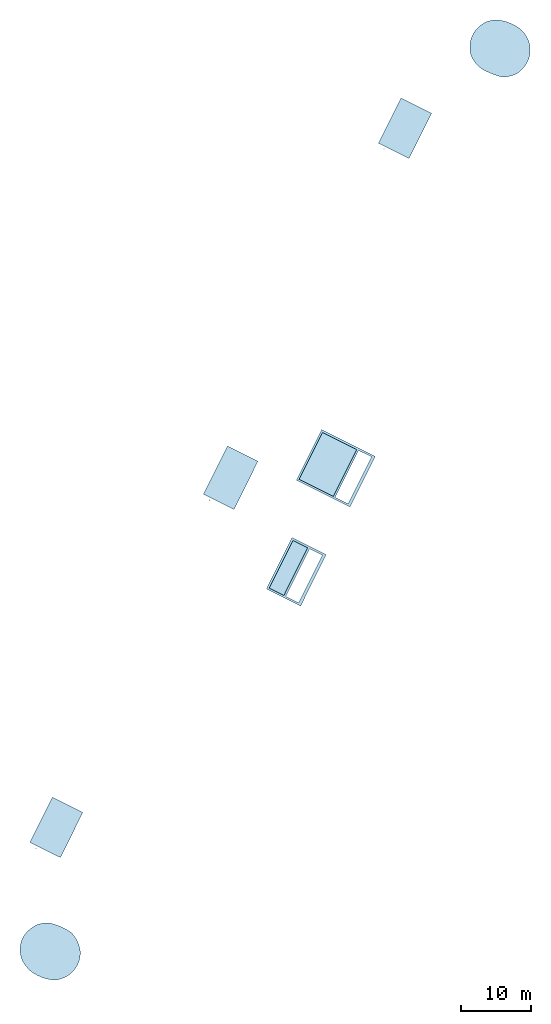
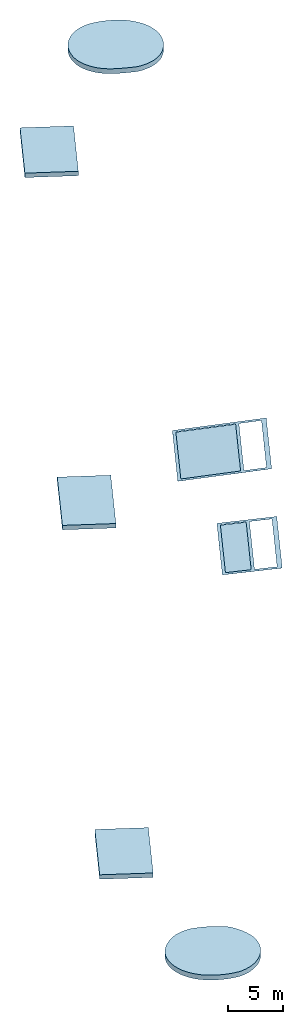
# One storey, part 1 of 4: 9 slabs, 4 openings, 4 elements without a shape of their own.
"""IFC2X3 building model written with IfcOpenShell, lengths in metres."""

from ifc_helpers import new_model, entity, si_unit, converted_unit, derived_unit, direction, frame, frame_2d, origin, origin_2d_with_axis, place, context, subcontext, project, spatial, circle_curve, parameter, trimmed, segment, composite_curve, rectangle, outline, extrude, material, layer, layer_set, layer_usage, element, aggregate, save


model = new_model("IFC2X3")

# Units and contexts
model_context = context("Model", 3, precision=1e-05, world=origin(), true_north=direction((0.894925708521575, 0.446215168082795)))
context_of_model = context(None, 3, precision=1e-05, world=origin(), true_north=direction((0.894925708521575, 0.446215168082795)))
body_context = subcontext(model_context, "Body", "Model", "MODEL_VIEW")
ifc_project = project(units=[si_unit("LENGTHUNIT", "METRE"), si_unit("AREAUNIT", "SQUARE_METRE"), si_unit("VOLUMEUNIT", "CUBIC_METRE"), converted_unit("PLANEANGLEUNIT", "DEGREE", entity("IfcRatioMeasure", 0.0174532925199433), si_unit("PLANEANGLEUNIT", "RADIAN"), dimensions=[0, 0, 0, 0, 0, 0, 0]), si_unit("MASSUNIT", "GRAM", prefix="KILO"), si_unit("TIMEUNIT", "SECOND"), si_unit("FREQUENCYUNIT", "HERTZ"), si_unit("THERMODYNAMICTEMPERATUREUNIT", "DEGREE_CELSIUS"), derived_unit("THERMALTRANSMITTANCEUNIT", [(si_unit("MASSUNIT", "GRAM", prefix="KILO"), 1), (si_unit("THERMODYNAMICTEMPERATUREUNIT", "KELVIN"), -1), (si_unit("TIMEUNIT", "SECOND"), -3)]), derived_unit("VOLUMETRICFLOWRATEUNIT", [(si_unit("LENGTHUNIT", "METRE"), 3), (si_unit("TIMEUNIT", "SECOND"), -1)]), si_unit("ELECTRICCURRENTUNIT", "AMPERE"), si_unit("ELECTRICVOLTAGEUNIT", "VOLT"), si_unit("POWERUNIT", "WATT"), si_unit("FORCEUNIT", "NEWTON", prefix="KILO"), si_unit("ILLUMINANCEUNIT", "LUX"), si_unit("LUMINOUSFLUXUNIT", "LUMEN"), si_unit("LUMINOUSINTENSITYUNIT", "CANDELA"), si_unit("PRESSUREUNIT", "PASCAL")], contexts=[model_context, context_of_model])

# Site, building, storey
site_placement = place(None, frame((218.228324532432, 584.720189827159, 0.0), z_axis=(0.0, 0.0, 1.0), x_axis=(0.446215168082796, 0.894925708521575, 0.0)))
site = spatial("IfcSite", under=ifc_project, at=site_placement, Name="Default", CompositionType="ELEMENT")
building_placement = place(site_placement, origin())
building = spatial("IfcBuilding", under=site, at=building_placement, CompositionType="ELEMENT")
storey_placement = place(building_placement, frame((0.0, 0.0, 11.95)))
storey = spatial("IfcBuildingStorey", under=building, at=storey_placement, Name="3 - Piano Copertura", CompositionType="ELEMENT", Elevation=11.95)

# Slabs
ifc_material_1 = material(Name="Asfalto, bitume")
ifc_layer_1 = layer(ifc_material_1, 0.01)
ifc_material_2 = material(Name="Sabbia e Calcestruzzo")
ifc_layer_2 = layer(ifc_material_2, 0.08)
ifc_material_3 = material(Name="Calcestruzzo")
ifc_layer_3 = layer(ifc_material_3, 0.35)
ifc_material_4 = material(Name="Isolamento")
ifc_layer_4 = layer(ifc_material_4, 0.05)
ifc_layer_set_1 = layer_set([ifc_layer_1, ifc_layer_2, ifc_layer_3, ifc_layer_4], Name="Pavimento:CA-caldana e contr- 49 cm")
ifc_layer_usage_1 = layer_usage(ifc_layer_set_1, "AXIS3", "POSITIVE", 0.0)
slab_1_placement = place(storey_placement, origin())
element("IfcSlab", 1, at=slab_1_placement, inside=storey, material=ifc_layer_usage_1, Name="Pavimento:CA-caldana e contr- 49 cm", ObjectType="Pavimento:CA-caldana e contr- 49 cm", PredefinedType="FLOOR", context=body_context, shape_type="SweptSolid", body=[
    extrude(rectangle(XDim=4.87999999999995, YDim=7.20999999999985, at=frame_2d((4.44089209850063e-16, 0.0), x_axis=(1.0, 0.0))), frame((-56.6144493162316, 3.54892100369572, -0.150000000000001), z_axis=(0.0, 0.0, -1.0), x_axis=(0.0, 1.0, 0.0)), (0.0, 0.0, 1.0), 0.489999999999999),
])
ifc_layer_usage_2 = layer_usage(ifc_layer_set_1, "AXIS3", "POSITIVE", 0.0)
slab_2_placement = place(storey_placement, origin())
element("IfcSlab", 2, at=slab_2_placement, inside=storey, material=ifc_layer_usage_2, Name="Pavimento:CA-caldana e contr- 49 cm", ObjectType="Pavimento:CA-caldana e contr- 49 cm", PredefinedType="FLOOR", context=body_context, shape_type="SweptSolid", body=[
    extrude(rectangle(XDim=4.88000000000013, YDim=7.20999999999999, at=frame_2d((6.43929354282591e-15, 0.0), x_axis=(1.0, 0.0))), frame((54.9209369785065, 3.54892100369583, -0.150000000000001), z_axis=(0.0, 0.0, -1.0), x_axis=(0.0, 1.0, 0.0)), (0.0, 0.0, 1.0), 0.489999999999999),
])
ifc_layer_usage_3 = layer_usage(ifc_layer_set_1, "AXIS3", "POSITIVE", 0.0)
slab_3_placement = place(storey_placement, origin())
element("IfcSlab", 3, at=slab_3_placement, inside=storey, material=ifc_layer_usage_3, Name="Pavimento:CA-caldana e contr- 49 cm", ObjectType="Pavimento:CA-caldana e contr- 49 cm", PredefinedType="FLOOR", context=body_context, shape_type="SweptSolid", body=[
    extrude(rectangle(XDim=4.87999999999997, YDim=7.68000000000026, at=origin_2d_with_axis()), frame((-0.835785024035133, 3.54892100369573, -0.150000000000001), z_axis=(0.0, 0.0, -1.0), x_axis=(0.0, 1.0, 0.0)), (0.0, 0.0, 1.0), 0.489999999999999),
])
ifc_layer_5 = layer(ifc_material_1, 0.01)
ifc_layer_6 = layer(ifc_material_2, 0.18)
ifc_layer_7 = layer(ifc_material_3, 0.35)
ifc_layer_set_2 = layer_set([ifc_layer_5, ifc_layer_6, ifc_layer_7], Name="Pavimento:CA-caldana - 54 cm")
ifc_layer_usage_4 = layer_usage(ifc_layer_set_2, "AXIS3", "POSITIVE", 0.0)
slab_4_placement = place(storey_placement, origin())
element("IfcSlab", 4, at=slab_4_placement, inside=storey, material=ifc_layer_usage_4, Name="Pavimento:CA-caldana - 54 cm", ObjectType="Pavimento:CA-caldana - 54 cm", PredefinedType="FLOOR", context=body_context, shape_type="SweptSolid", body=[
    extrude(outline(composite_curve([segment(trimmed(circle_curve(frame_2d((0.882798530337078, 0.0847054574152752), x_axis=(1.0, 0.0)), 3.79132314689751), [parameter(0.0)], [parameter(25.8568401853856)], True, "PARAMETER"), True, "CONTINUOUS"), segment(trimmed(circle_curve(frame_2d((0.471612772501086, -0.367453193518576), x_axis=(0.87592305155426, 0.482450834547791)), 4.36447755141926), [parameter(0.0)], [parameter(38.2659143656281)], True, "PARAMETER"), True, "CONTINUOUS"), segment(trimmed(circle_curve(frame_2d((0.813601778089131, -0.186450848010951), x_axis=(0.332883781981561, 0.942967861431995)), 4.07207057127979), [parameter(0.0)], [parameter(22.2253159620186)], True, "PARAMETER"), True, "CONTINUOUS"), segment(trimmed(circle_curve(frame_2d((2.02452557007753, -4.35549398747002), x_axis=(-0.168566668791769, 0.985690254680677)), 8.35588715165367), [parameter(0.0)], [parameter(23.4010639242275)], True, "PARAMETER"), True, "CONTINUOUS"), segment(trimmed(circle_curve(frame_2d((-0.417564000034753, 0.215418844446), x_axis=(-0.657941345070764, 0.753069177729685)), 3.22484007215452), [parameter(0.0)], [parameter(14.5283489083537)], True, "PARAMETER"), True, "CONTINUOUS"), segment(trimmed(circle_curve(frame_2d((0.678149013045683, -0.765165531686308), x_axis=(-0.802037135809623, 0.597274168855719)), 4.68661667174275), [parameter(0.0)], [parameter(22.691978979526)], True, "PARAMETER"), True, "CONTINUOUS"), segment(trimmed(circle_curve(frame_2d((0.49810752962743, -0.68016727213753), x_axis=(-0.972427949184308, 0.233203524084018)), 4.4915409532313), [parameter(0.0)], [parameter(4.68056968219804)], True, "PARAMETER"), True, "CONTINUOUS"), segment(trimmed(circle_curve(frame_2d((-0.0925507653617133, -0.341311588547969), x_axis=(-0.995919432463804, 0.0902467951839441)), 3.86371394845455), [parameter(0.0)], [parameter(25.2527722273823)], True, "PARAMETER"), True, "CONTINUOUS"), segment(trimmed(circle_curve(frame_2d((-0.0263589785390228, -0.301519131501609), x_axis=(-0.937960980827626, -0.346740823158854)), 3.93957019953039), [parameter(0.0)], [parameter(44.2545362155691)], True, "PARAMETER"), True, "CONTINUOUS"), segment(trimmed(circle_curve(frame_2d((-0.0716525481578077, -0.361955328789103), x_axis=(-0.426351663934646, -0.904557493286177)), 3.86556185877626), [parameter(0.0)], [parameter(22.5911453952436)], True, "PARAMETER"), True, "CONTINUOUS"), segment(trimmed(circle_curve(frame_2d((-0.615360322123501, 2.09898329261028), x_axis=(0.0576849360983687, -0.998334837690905)), 6.33292726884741), [parameter(0.0)], [parameter(32.6796937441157)], True, "PARAMETER"), True, "CONTINUOUS"), segment(trimmed(circle_curve(frame_2d((0.13969259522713, 0.616204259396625), x_axis=(0.631541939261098, -0.775341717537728)), 4.69668401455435), [parameter(0.0)], [parameter(22.1966551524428)], True, "PARAMETER"), True, "CONTINUOUS"), segment(trimmed(circle_curve(frame_2d((0.743156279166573, 0.118123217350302), x_axis=(0.895065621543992, -0.445934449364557)), 3.9311074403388), [parameter(0.0)], [parameter(25.9960713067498)], True, "PARAMETER"), True, "CONTINUOUS")], self_intersect=False)), frame((-72.5658462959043, -3.82267325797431, -0.149999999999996), z_axis=(0.0, 0.0, -1.0), x_axis=(-0.413748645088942, 0.910391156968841, 0.0)), (0.0, 0.0, 1.0), 0.540000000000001),
])
ifc_layer_usage_5 = layer_usage(ifc_layer_set_2, "AXIS3", "POSITIVE", 0.0)
slab_5_placement = place(storey_placement, origin())
element("IfcSlab", 5, at=slab_5_placement, inside=storey, material=ifc_layer_usage_5, Name="Pavimento:CA-caldana - 54 cm", ObjectType="Pavimento:CA-caldana - 54 cm", PredefinedType="FLOOR", context=body_context, shape_type="SweptSolid", body=[
    extrude(outline(composite_curve([segment(trimmed(circle_curve(frame_2d((0.515464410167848, 0.193371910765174), x_axis=(1.0, 0.0)), 3.99320405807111), [parameter(0.0)], [parameter(39.606154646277)], True, "PARAMETER"), True, "CONTINUOUS"), segment(trimmed(circle_curve(frame_2d((0.511818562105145, -0.14925878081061), x_axis=(0.729460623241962, 0.684022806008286)), 4.22255694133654), [parameter(0.0)], [parameter(17.2436896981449)], True, "PARAMETER"), True, "CONTINUOUS"), segment(trimmed(circle_curve(frame_2d((-0.161967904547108, -1.99844704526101), x_axis=(0.447076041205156, 0.894495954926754)), 6.17193502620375), [parameter(0.0)], [parameter(32.7673588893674)], True, "PARAMETER"), True, "CONTINUOUS"), segment(trimmed(circle_curve(frame_2d((-0.0612144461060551, -0.36781274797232), x_axis=(-0.168158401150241, 0.985759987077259)), 4.57015038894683), [parameter(0.0)], [parameter(20.4881780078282)], True, "PARAMETER"), True, "CONTINUOUS"), segment(trimmed(circle_curve(frame_2d((-0.279483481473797, 0.196341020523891), x_axis=(-0.523035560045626, 0.852310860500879)), 3.97385256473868), [parameter(0.0)], [parameter(29.9709224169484)], True, "PARAMETER"), True, "CONTINUOUS"), segment(trimmed(circle_curve(frame_2d((0.00993000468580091, 0.259998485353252), x_axis=(-0.899962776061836, 0.435966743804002)), 4.20232406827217), [parameter(0.0)], [parameter(46.6838827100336)], True, "PARAMETER"), True, "CONTINUOUS"), segment(trimmed(circle_curve(frame_2d((-0.54185719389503, 0.226685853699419), x_axis=(-0.917684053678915, -0.397310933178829)), 3.67848524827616), [parameter(0.0)], [parameter(18.7928652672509)], True, "PARAMETER"), True, "CONTINUOUS"), segment(trimmed(circle_curve(frame_2d((-0.321553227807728, 0.542409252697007), x_axis=(-0.726373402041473, -0.687300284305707)), 4.05467964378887), [parameter(0.0)], [parameter(22.9899400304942)], True, "PARAMETER"), True, "CONTINUOUS"), segment(trimmed(circle_curve(frame_2d((1.73069901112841, 10.9043101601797), x_axis=(-0.252593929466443, -0.967572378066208)), 14.5494527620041), [parameter(0.0)], [parameter(9.22578686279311)], True, "PARAMETER"), True, "CONTINUOUS"), segment(trimmed(circle_curve(frame_2d((0.63069468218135, 1.27144201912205), x_axis=(-0.0556760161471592, -0.998448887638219)), 4.85942505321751), [parameter(0.0)], [parameter(15.3086418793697)], True, "PARAMETER"), True, "CONTINUOUS"), segment(trimmed(circle_curve(frame_2d((0.700583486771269, 0.373930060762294), x_axis=(0.239388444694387, -0.97092387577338)), 3.96905485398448), [parameter(0.0)], [parameter(28.5996624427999)], True, "PARAMETER"), True, "CONTINUOUS"), segment(trimmed(circle_curve(frame_2d((0.553477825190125, 0.212531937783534), x_axis=(0.714498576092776, -0.69963689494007)), 3.9552370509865), [parameter(0.0)], [parameter(44.120325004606)], True, "PARAMETER"), True, "CONTINUOUS")], self_intersect=False)), frame((70.8938418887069, -3.64942060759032, -0.149999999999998), z_axis=(0.0, 0.0, -1.0), x_axis=(0.08161395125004, 0.996664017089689, 0.0)), (0.0, 0.0, 1.0), 0.540000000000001),
])

# Roof, slab, openings
roof_1_placement = place(storey_placement, frame((-12.7843716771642, -13.5610789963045, -0.59)))
roof_1 = element("IfcRoof", 6, at=roof_1_placement, inside=storey, Name="Tetto di base:Lamierino - 1 cm", ObjectType="Tetto di base:Lamierino - 1 cm", ShapeType="NOTDEFINED")
ifc_material_5 = material(Name="Alluminio")
ifc_layer_8 = layer(ifc_material_5, 0.005)
ifc_layer_set_3 = layer_set([ifc_layer_8], Name="Tetto di base:Lamierino - 1 cm")
slab_6_placement = place(roof_1_placement, origin())
slab_6 = element("IfcSlab", 7, at=slab_6_placement, material=ifc_layer_set_3, Name="Tetto di base:Lamierino - 1 cm", ObjectType="Tetto di base:Lamierino - 1 cm", PredefinedType="ROOF", context=body_context, shape_type="SweptSolid", body=[
    extrude(rectangle(XDim=8.1999999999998, YDim=5.48567917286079, at=origin_2d_with_axis()), frame((4.0999999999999, 2.73000000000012, 0.26508300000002), z_axis=(0.0, 0.0966454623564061, 0.995318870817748), x_axis=(1.0, 0.0, 0.0)), (0.0, -0.0966454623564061, 0.995318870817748), 0.00502351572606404),
])
opening_1_placement = place(roof_1_placement, origin())
element("IfcOpeningElement", 8, at=opening_1_placement, cuts=slab_6, Name="Tetto di base:Lamierino - 1 cm", ObjectType="Opening", context=body_context, shape_type="SweptSolid", body=[
    extrude(rectangle(XDim=2.36105239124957, YDim=7.5999999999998, at=frame_2d((1.11022302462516e-15, -3.77475828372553e-15), x_axis=(1.0, 0.0))), frame((4.0999999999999, 3.9850000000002, 0.143222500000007), z_axis=(0.0, 0.0966454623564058, 0.995318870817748), x_axis=(0.0, 0.995318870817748, -0.0966454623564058)), (-0.0966454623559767, 0.0, 0.995318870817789), 0.00504714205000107),
])
opening_2_placement = place(roof_1_placement, origin())
element("IfcOpeningElement", 9, at=opening_2_placement, cuts=slab_6, Name="Tetto di base:Lamierino - 1 cm", ObjectType="Opening", context=body_context, shape_type="SweptSolid", body=[
    extrude(rectangle(XDim=2.06968847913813, YDim=7.5999999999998, at=frame_2d((6.66133814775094e-16, 0.0), x_axis=(0.0, 1.0))), frame((4.0999999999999, 1.48000000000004, 0.386458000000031), z_axis=(0.0, 0.0966454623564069, 0.995318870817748), x_axis=(-1.0, 0.0, 0.0)), (0.0, 0.0966454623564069, 0.995318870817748), 0.00504714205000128),
])
aggregate(roof_1, [slab_6])

roof_2_placement = place(storey_placement, frame((3.01421497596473, -13.5610789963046, -1.1)))
roof_2 = element("IfcRoof", 10, at=roof_2_placement, inside=storey, Name="Tetto di base:Lamierino - 1 cm", ObjectType="Tetto di base:Lamierino - 1 cm", ShapeType="NOTDEFINED")
slab_7_placement = place(roof_2_placement, origin())
slab_7 = element("IfcSlab", 11, at=slab_7_placement, material=ifc_layer_set_3, Name="Tetto di base:Lamierino - 1 cm", ObjectType="Tetto di base:Lamierino - 1 cm", PredefinedType="ROOF", context=body_context, shape_type="SweptSolid", body=[
    extrude(rectangle(XDim=8.07999999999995, YDim=8.62174872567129, at=frame_2d((8.88178419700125e-16, -8.88178419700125e-16), x_axis=(1.0, 0.0))), frame((4.03999999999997, 4.28000000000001, 0.515012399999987), z_axis=(0.0, 0.119468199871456, 0.992838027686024), x_axis=(1.0, 0.0, 0.0)), (0.0, -0.119468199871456, 0.992838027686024), 0.00503606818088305),
])
opening_3_placement = place(roof_2_placement, origin())
element("IfcOpeningElement", 12, at=opening_3_placement, cuts=slab_7, Name="Tetto di base:Lamierino - 1 cm", ObjectType="Opening", context=body_context, shape_type="SweptSolid", body=[
    extrude(rectangle(XDim=5.48931431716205, YDim=7.47999999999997, at=frame_2d((-6.66133814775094e-16, -4.21884749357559e-15), x_axis=(1.0, 0.0))), frame((4.03999999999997, 5.53500000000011, 0.363998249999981), z_axis=(0.0, 0.119468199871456, 0.992838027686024), x_axis=(0.0, 0.992838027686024, -0.119468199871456)), (-0.119468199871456, 0.0, 0.992838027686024), 0.00507239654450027),
])
opening_4_placement = place(roof_2_placement, origin())
element("IfcOpeningElement", 13, at=opening_4_placement, cuts=slab_7, Name="Tetto di base:Lamierino - 1 cm", ObjectType="Opening", context=body_context, shape_type="SweptSolid", body=[
    extrude(rectangle(XDim=2.07486009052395, YDim=7.47999999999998, at=frame_2d((0.0, 3.33066907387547e-15), x_axis=(0.0, 1.0))), frame((4.03999999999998, 1.48000000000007, 0.85193639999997), z_axis=(0.0, 0.119468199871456, 0.992838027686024), x_axis=(-1.0, 0.0, 0.0)), (0.0, 0.119468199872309, 0.992838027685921), 0.0050723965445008),
])
aggregate(roof_2, [slab_7])

# Roof, slab
roof_3_placement = place(storey_placement, frame((-12.4843716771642, -10.7510789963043, -0.65)))
roof_3 = element("IfcRoof", 14, at=roof_3_placement, inside=storey, Name="Tetto di base:Ondulina - 6 cm", ObjectType="Tetto di base:Ondulina - 6 cm", ShapeType="NOTDEFINED")
ifc_material_6 = material(Name="Plastica")
ifc_layer_9 = layer(ifc_material_6, 0.06)
ifc_layer_set_4 = layer_set([ifc_layer_9], Name="Tetto di base:Ondulina - 6 cm")
slab_8_placement = place(roof_3_placement, origin())
slab_8 = element("IfcSlab", 15, at=slab_8_placement, material=ifc_layer_set_4, Name="Tetto di base:Ondulina - 6 cm", ObjectType="Tetto di base:Ondulina - 6 cm", PredefinedType="ROOF", context=body_context, shape_type="SweptSolid", body=[
    extrude(rectangle(XDim=7.59999999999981, YDim=2.36106826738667, at=frame_2d((0.0, 5.55111512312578e-16), x_axis=(1.0, 0.0))), frame((3.7999999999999, 1.17500000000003, 0.114174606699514), z_axis=(0.0, 0.0967143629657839, 0.995312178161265), x_axis=(1.0, 0.0, 0.0)), (0.0, -0.0967143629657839, 0.995312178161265), 0.0602825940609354),
])
aggregate(roof_3, [slab_8])

roof_4_placement = place(storey_placement, frame((3.31421497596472, -10.7510789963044, -1.15)))
roof_4 = element("IfcRoof", 16, at=roof_4_placement, inside=storey, Name="Tetto di base:Ondulina - 6 cm", ObjectType="Tetto di base:Ondulina - 6 cm", ShapeType="NOTDEFINED")
slab_9_placement = place(roof_4_placement, origin())
slab_9 = element("IfcSlab", 17, at=slab_9_placement, material=ifc_layer_set_4, Name="Tetto di base:Ondulina - 6 cm", ObjectType="Tetto di base:Ondulina - 6 cm", PredefinedType="ROOF", context=body_context, shape_type="SweptSolid", body=[
    extrude(rectangle(XDim=7.47999999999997, YDim=5.48929804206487, at=frame_2d((0.0, -1.33226762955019e-15), x_axis=(1.0, 0.0))), frame((3.73999999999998, 2.72499999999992, 0.327831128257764), z_axis=(0.0, 0.119443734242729, 0.992840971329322), x_axis=(1.0, 0.0, 0.0)), (0.0, -0.119443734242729, 0.992840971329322), 0.0604326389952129),
])
aggregate(roof_4, [slab_9])

save(model, "model.ifc")
